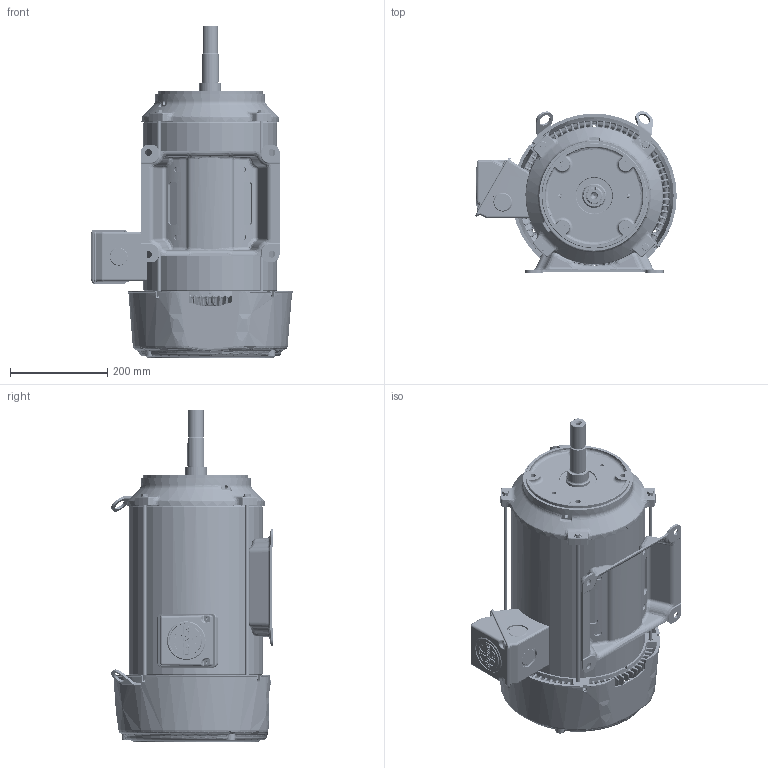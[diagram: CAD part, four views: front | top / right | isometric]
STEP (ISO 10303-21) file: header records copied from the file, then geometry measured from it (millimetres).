
FILE_DESCRIPTION((''),'2;1');
FILE_NAME('250RS_CCP_ASSY_ASM','2021-02-27T18:23:23',('EMD2341'),('Nidec Motor Corporation'),'CREO PARAMETRIC BY PTC INC, 2019080','CREO PARAMETRIC BY PTC INC, 2019080','');
FILE_SCHEMA(('CONFIG_CONTROL_DESIGN'));
Length unit declared in the file: inch
Products named in the file (19): 2091638_AF0; 0374700-BKT_AF0; 2033996-006_AF0; 2091713_ASM; 0375099-BKT_AF11; 2033996-004_AF1; 2078169_ASM; 0183520; 2091743; 0356644; 0587751; 0369733; 0389564; 0041590; 0364285; 0380742; 0364229; 0364236; 250RS_CCP_ASSY_ASM
Assembly tree (25 placements, depth 3):
  250RS_CCP_ASSY_ASM
    2091638_AF0
    2091713_ASM
      0374700-BKT_AF0
      2033996-006_AF0
    2078169_ASM
      0375099-BKT_AF11
      2033996-004_AF1
    0183520
    2091743
    0356644
    0587751
    0369733  x2
    0389564  x4
    0041590  x4
    0364285
    0380742
    0364229
    0364236
Bounding box: 414.87 x 332.47 x 683.62 mm (x, y, z)
Volume: 6102832.2 mm3; surface area: 2162540.3 mm2
Topology: 27 solids, 38 shells, 8948 faces, 20943 edges, 12066 vertices
Faces by surface type: bspline 4689, plane 1282, cylinder 1267, torus 938, cone 574, sphere 198
Entity records: 472038 total; most frequent: CARTESIAN_POINT 302852, ORIENTED_EDGE 41122, DIRECTION 26871, EDGE_CURVE 20577, VERTEX_POINT 11856, AXIS2_PLACEMENT_3D 11193, B_SPLINE_CURVE_WITH_KNOTS 9054, EDGE_LOOP 9042
